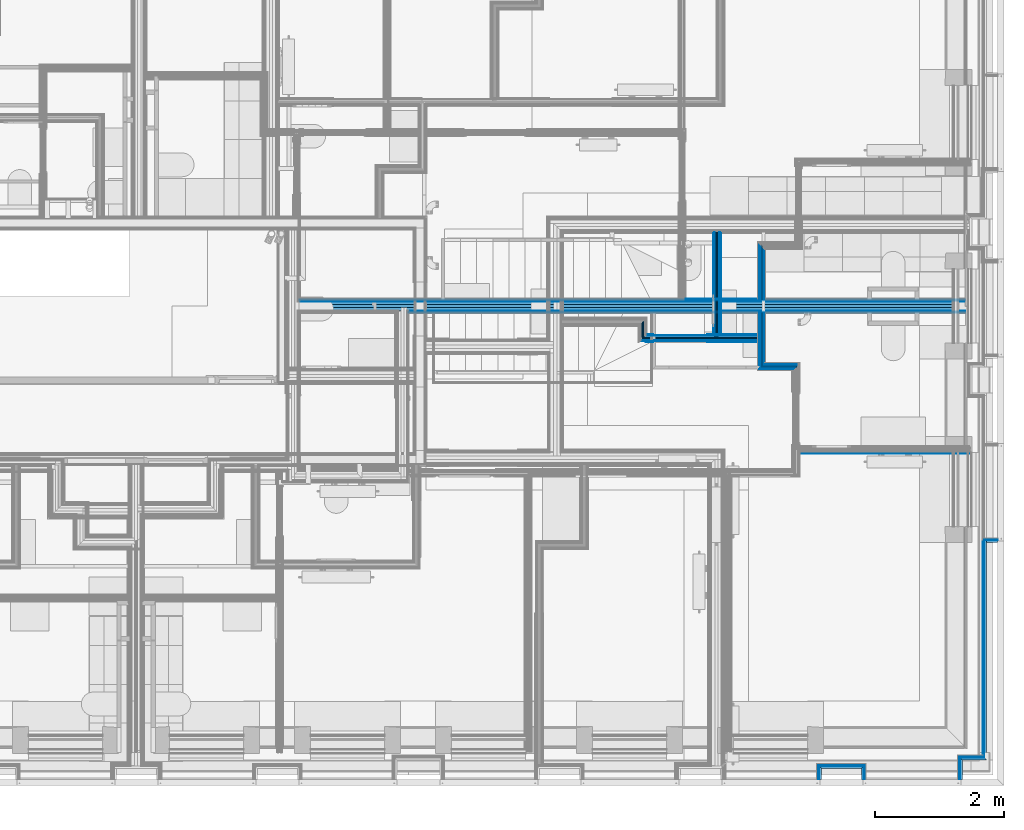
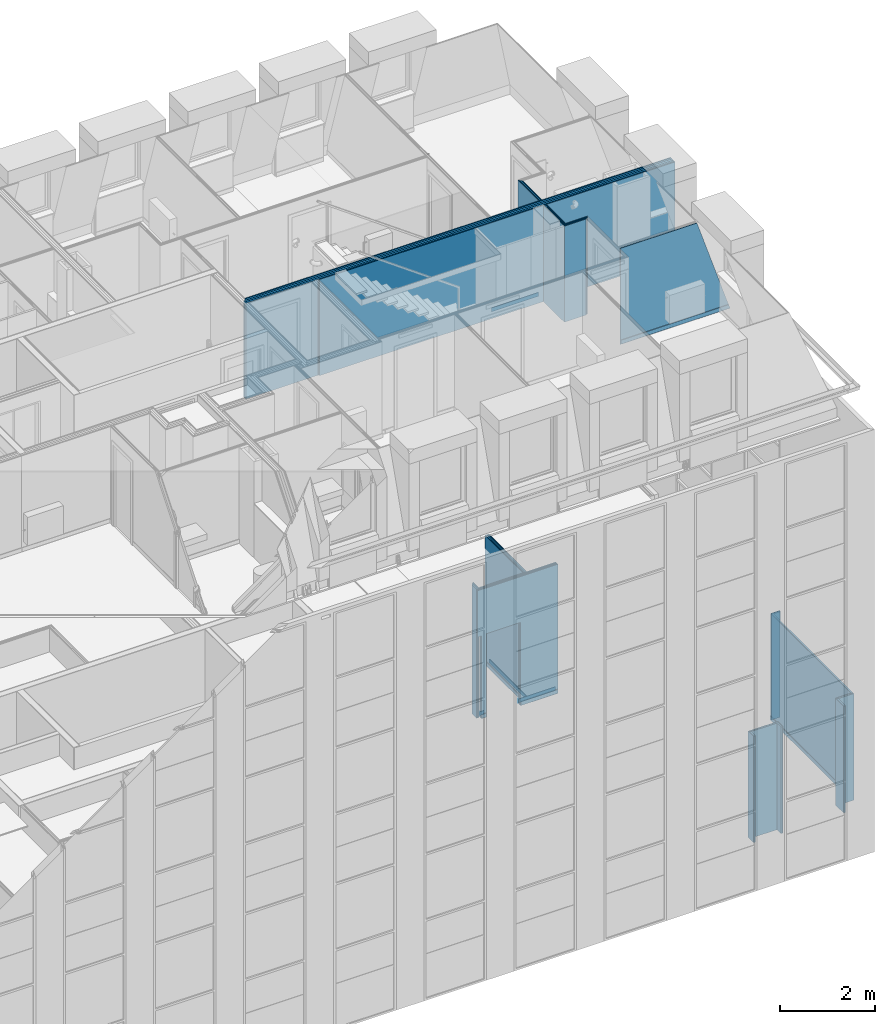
# One storey, part 40 of 169: 59 building element parts, 2 openings, 15 elements without a shape of their own.
"""IFC2X3 building model written with IfcOpenShell, lengths in metres."""

import ifcopenshell
import ifcopenshell.guid

model = None  # the IFC model being written
_history = None  # IfcOwnerHistory: only IFC2X3 demands one
_inside = {}  # id of a spatial element -> (the spatial element, [elements in it])
_under = {}  # id of a project, library or spatial element -> (it, [spatial elements below it])
_declared = {}  # id of a project -> (the project, [libraries it declares])
_typed = {}  # id of a type object -> (the type object, [elements of that type])
_made_of = {}  # id of a material, layer set ... -> (it, [elements and type objects made of it])


def new_model(schema):
    """Start an empty IFC model of exactly this schema.

    Asked for "IFC4X3", IfcOpenShell would pick the latest addendum, in which some entities
    have other attributes; the version numbers below select the first issue.
    IFC2X3 requires an IfcOwnerHistory on every rooted entity: one is made here for all.
    """
    global model, _history
    if schema == "IFC4X3":
        model = ifcopenshell.file(schema_version=(4, 3, 0, 0))
    else:
        model = ifcopenshell.file(schema=schema)
    _inside.clear()
    _under.clear()
    _declared.clear()
    _typed.clear()
    _made_of.clear()
    _history = None
    if model.schema == "IFC2X3":
        org = make("IfcOrganization", Name="unknown")
        user = make(
            "IfcPersonAndOrganization",
            ThePerson=make("IfcPerson", FamilyName="unknown"),
            TheOrganization=org,
        )
        app = make(
            "IfcApplication",
            ApplicationDeveloper=org,
            Version="unknown",
            ApplicationFullName="unknown",
            ApplicationIdentifier="unknown",
        )
        _history = make(
            "IfcOwnerHistory",
            OwningUser=user,
            OwningApplication=app,
            ChangeAction="ADDED",
            CreationDate=0,
        )
    return model


def make(cls, **values):
    """One entity of the class cls with the attributes given. An attribute that is None is left unset."""
    return model.create_entity(
        cls, **{name: value for name, value in values.items() if value is not None}
    )


def entity(cls, *values):
    """Any entity or typed value of the class cls, its attributes in the order of the schema. None: left unset."""
    e = model.create_entity(cls)
    for i, value in enumerate(values):
        if value is not None:
            e[i] = value
    return e


def rooted(cls, **values):
    """An entity with a GlobalId (a new one), such as an element, a storey or a relation."""
    return make(cls, GlobalId=ifcopenshell.guid.new(), OwnerHistory=_history, **values)


def si_unit(unit_type, name, prefix=None):
    """IfcSIUnit, for example si_unit("LENGTHUNIT", "METRE", prefix="MILLI")."""
    return make("IfcSIUnit", UnitType=unit_type, Prefix=prefix, Name=name)


def converted_unit(unit_type, name, factor, base, dimensions=None, offset=None):
    """IfcConversionBasedUnit, such as the inch: factor (a typed value) times the base unit."""
    return make(
        "IfcConversionBasedUnit"
        if offset is None
        else "IfcConversionBasedUnitWithOffset",
        ConversionOffset=offset,
        Dimensions=None
        if dimensions is None
        else entity("IfcDimensionalExponents", *dimensions),
        UnitType=unit_type,
        Name=name,
        ConversionFactor=make(
            "IfcMeasureWithUnit", ValueComponent=factor, UnitComponent=base
        ),
    )


def derived_unit(unit_type, elements):
    """IfcDerivedUnit: a product of units, each with its exponent."""
    return make(
        "IfcDerivedUnit",
        Elements=[
            make("IfcDerivedUnitElement", Unit=unit, Exponent=power)
            for unit, power in elements
        ],
        UnitType=unit_type,
    )


def money_unit(currency):
    """IfcMonetaryUnit."""
    return make("IfcMonetaryUnit", Currency=currency)


def assignment(units):
    """IfcUnitAssignment: the units of a project."""
    return None if units is None else make("IfcUnitAssignment", Units=units)


def point(xyz):
    """IfcCartesianPoint."""
    return None if xyz is None else make("IfcCartesianPoint", Coordinates=xyz)


def direction(xyz):
    """IfcDirection."""
    return None if xyz is None else make("IfcDirection", DirectionRatios=xyz)


def frame(location, z_axis=None, x_axis=None):
    """IfcAxis2Placement3D, a coordinate frame: its origin and axes. An axis left out is left unset."""
    return make(
        "IfcAxis2Placement3D",
        Location=point(location),
        Axis=direction(z_axis),
        RefDirection=direction(x_axis),
    )


def frame_2d(location, x_axis=None):
    """IfcAxis2Placement2D, a coordinate frame in the plane: its origin and x axis."""
    return make(
        "IfcAxis2Placement2D", Location=point(location), RefDirection=direction(x_axis)
    )


def origin_with_axes():
    """The frame at (0, 0, 0) with the z axis (0, 0, 1) and the x axis (1, 0, 0) written out."""
    return frame((0.0, 0.0, 0.0), z_axis=(0.0, 0.0, 1.0), x_axis=(1.0, 0.0, 0.0))


def place(relative_to, where):
    """IfcLocalPlacement: puts the frame where relative to a parent placement (None: the world)."""
    return make(
        "IfcLocalPlacement", PlacementRelTo=relative_to, RelativePlacement=where
    )


def context(
    kind, dimensions, precision=None, world=None, true_north=None, identifier=None
):
    """IfcGeometricRepresentationContext, for example the 3D "Model" context."""
    return make(
        "IfcGeometricRepresentationContext",
        ContextIdentifier=identifier,
        ContextType=kind,
        CoordinateSpaceDimension=dimensions,
        Precision=precision,
        WorldCoordinateSystem=world,
        TrueNorth=true_north,
    )


def subcontext(parent, identifier, kind, view, scale=None):
    """IfcGeometricRepresentationSubContext, for example "Body" below "Model"."""
    return make(
        "IfcGeometricRepresentationSubContext",
        ContextIdentifier=identifier,
        ContextType=kind,
        ParentContext=parent,
        TargetScale=scale,
        TargetView=view,
    )


def project(units=None, contexts=None):
    """IfcProject with its units and contexts."""
    return rooted(
        "IfcProject",
        Name="project",
        RepresentationContexts=contexts,
        UnitsInContext=assignment(units),
    )


def spatial(cls, under=None, at=None, **own):
    """A site, building, storey or space (cls), placed at a placement, below another one or the project."""
    s = rooted(cls, ObjectPlacement=at, **own)
    if under is not None:
        _under.setdefault(under.id(), (under, []))[1].append(s)
    return s


def polyline(points):
    """IfcPolyline through the points."""
    return make("IfcPolyline", Points=[point(p) for p in points])


def profile(cls, at=None, kind="AREA", **sizes):
    """A parametric profile (cls). Its sizes go by their IFC names, for example OverallWidth=200.0."""
    return make(cls, ProfileType=kind, Position=at, **sizes)


def rectangle(**sizes):
    """IfcRectangleProfileDef."""
    return profile("IfcRectangleProfileDef", **sizes)


def outline(outer, holes=None, kind="AREA"):
    """IfcArbitraryClosedProfileDef: a profile drawn as a closed curve; with holes, ...WithVoids."""
    if holes is None:
        return make("IfcArbitraryClosedProfileDef", ProfileType=kind, OuterCurve=outer)
    return make(
        "IfcArbitraryProfileDefWithVoids",
        ProfileType=kind,
        OuterCurve=outer,
        InnerCurves=holes,
    )


def extrude(swept, where, along, depth):
    """IfcExtrudedAreaSolid: the profile swept, set in the frame where, extruded along a direction by depth."""
    return make(
        "IfcExtrudedAreaSolid",
        SweptArea=swept,
        Position=where,
        ExtrudedDirection=direction(along),
        Depth=depth,
    )


def clip(a, b, op="DIFFERENCE"):
    """IfcBooleanClippingResult: the solid a cut by the half space b."""
    return make(
        "IfcBooleanClippingResult", Operator=op, FirstOperand=a, SecondOperand=b
    )


def halfspace(plane, agree):
    """IfcHalfSpaceSolid: all space on one side of the plane z = 0 of the frame plane."""
    return make(
        "IfcHalfSpaceSolid",
        BaseSurface=make("IfcPlane", Position=plane),
        AgreementFlag=agree,
    )


def shape(context_of_items, identifier, shape_type, items):
    """IfcShapeRepresentation: the items that make up one representation, for example the "Body"."""
    return make(
        "IfcShapeRepresentation",
        ContextOfItems=context_of_items,
        RepresentationIdentifier=identifier,
        RepresentationType=shape_type,
        Items=items,
    )


def material(Name=None, Category=None):
    """IfcMaterial."""
    return make("IfcMaterial", Name=Name, Category=Category)


def made_of(thing, what):
    """Note that an element or type object is made of a material, layer set ...; save() writes the relation."""
    if what is not None:
        _made_of.setdefault(what.id(), (what, []))[1].append(thing)
    return thing


def type_object(cls, material=None, **own):
    """A type object (cls), such as IfcWallType, which elements share."""
    return made_of(rooted(cls, **own), material)


def element(
    cls,
    number,
    at=None,
    inside=None,
    cuts=None,
    type_object=None,
    material=None,
    context=None,
    identifier="Body",
    shape_type=None,
    held_by="IfcProductDefinitionShape",
    body=None,
    shapes=None,
    **own,
):
    """One element of the class cls, such as IfcWall. Its Tag is "e" and its number.

    at: its placement. inside: the storey or other place that contains it. cuts: it is an
    opening in that element (IfcRelVoidsElement). A single representation is given by context,
    identifier, shape_type and body (its items); several are given by shapes. held_by: the class
    of the entity that holds the representations. save() writes the other relations.
    """
    e = rooted(cls, Tag="e%d" % number, ObjectPlacement=at, **own)
    if body is not None:
        shapes = [shape(context, identifier, shape_type, body)]
    if shapes is not None:
        e.Representation = make(held_by, Representations=shapes)
    if inside is not None:
        _inside.setdefault(inside.id(), (inside, []))[1].append(e)
    if cuts is not None:
        rooted(
            "IfcRelVoidsElement", RelatingBuildingElement=cuts, RelatedOpeningElement=e
        )
    if type_object is not None:
        _typed.setdefault(type_object.id(), (type_object, []))[1].append(e)
    return made_of(e, material)


def aggregate(whole, parts):
    """IfcRelAggregates: a whole, such as a stair, and the parts it consists of."""
    return rooted("IfcRelAggregates", RelatingObject=whole, RelatedObjects=parts)


def save(model, path):
    """Write the relations noted so far, then the file.

    IfcRelAggregates (storeys below a building ...), IfcRelContainedInSpatialStructure (elements
    in a storey), IfcRelDefinesByType, IfcRelAssociatesMaterial and IfcRelDeclares: one each for
    every whole, place, type object, material and project.
    """
    for whole, parts in _under.values():
        aggregate(whole, parts)
    for where, things in _inside.values():
        rooted(
            "IfcRelContainedInSpatialStructure",
            RelatedElements=things,
            RelatingStructure=where,
        )
    for kind, things in _typed.values():
        rooted("IfcRelDefinesByType", RelatedObjects=things, RelatingType=kind)
    for what, things in _made_of.values():
        rooted("IfcRelAssociatesMaterial", RelatedObjects=things, RelatingMaterial=what)
    for by, libraries in _declared.values():
        rooted("IfcRelDeclares", RelatingContext=by, RelatedDefinitions=libraries)
    model.write(path)


model = new_model("IFC2X3")

# Units and contexts
model_context = context("Model", 3, precision=1e-05, world=origin_with_axes(), true_north=direction((0.0, 1.0)))
body_context = subcontext(model_context, "Body", "Model", "MODEL_VIEW", scale=1.0)
ifc_project = project(units=[si_unit("LENGTHUNIT", "METRE"), si_unit("AREAUNIT", "SQUARE_METRE"), si_unit("VOLUMEUNIT", "CUBIC_METRE"), si_unit("ABSORBEDDOSEUNIT", "GRAY"), si_unit("AMOUNTOFSUBSTANCEUNIT", "MOLE"), si_unit("DOSEEQUIVALENTUNIT", "SIEVERT"), si_unit("ELECTRICCAPACITANCEUNIT", "FARAD"), si_unit("ELECTRICCHARGEUNIT", "COULOMB"), si_unit("ELECTRICCONDUCTANCEUNIT", "SIEMENS"), si_unit("ELECTRICCURRENTUNIT", "AMPERE"), si_unit("ELECTRICRESISTANCEUNIT", "OHM"), si_unit("ELECTRICVOLTAGEUNIT", "VOLT"), si_unit("ENERGYUNIT", "JOULE"), si_unit("FORCEUNIT", "NEWTON"), si_unit("FREQUENCYUNIT", "HERTZ"), si_unit("ILLUMINANCEUNIT", "LUX"), si_unit("INDUCTANCEUNIT", "HENRY"), si_unit("LUMINOUSFLUXUNIT", "LUMEN"), si_unit("LUMINOUSINTENSITYUNIT", "CANDELA"), si_unit("MAGNETICFLUXDENSITYUNIT", "TESLA"), si_unit("MAGNETICFLUXUNIT", "WEBER"), si_unit("MASSUNIT", "GRAM"), converted_unit("PLANEANGLEUNIT", "degree", entity("IfcReal", 0.0174532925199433), si_unit("PLANEANGLEUNIT", "RADIAN"), dimensions=[0, 0, 0, 0, 0, 0, 0]), si_unit("POWERUNIT", "WATT"), si_unit("PRESSUREUNIT", "PASCAL"), si_unit("RADIOACTIVITYUNIT", "BECQUEREL"), si_unit("SOLIDANGLEUNIT", "STERADIAN"), si_unit("THERMODYNAMICTEMPERATUREUNIT", "KELVIN"), si_unit("TIMEUNIT", "SECOND"), derived_unit("ACCELERATIONUNIT", [(si_unit("LENGTHUNIT", "METRE"), 1), (si_unit("TIMEUNIT", "SECOND"), -2)]), derived_unit("ANGULARVELOCITYUNIT", [(converted_unit("PLANEANGLEUNIT", "degree", entity("IfcReal", 0.0174532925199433), si_unit("PLANEANGLEUNIT", "RADIAN"), dimensions=[0, 0, 0, 0, 0, 0, 0]), 1), (si_unit("TIMEUNIT", "SECOND"), -1)]), derived_unit("CURVATUREUNIT", [(converted_unit("PLANEANGLEUNIT", "degree", entity("IfcReal", 0.0174532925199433), si_unit("PLANEANGLEUNIT", "RADIAN"), dimensions=[0, 0, 0, 0, 0, 0, 0]), 1), (si_unit("LENGTHUNIT", "METRE"), -1)]), derived_unit("DYNAMICVISCOSITYUNIT", [(si_unit("PRESSUREUNIT", "PASCAL"), 1), (si_unit("TIMEUNIT", "SECOND"), 1)]), derived_unit("HEATFLUXDENSITYUNIT", [(si_unit("POWERUNIT", "WATT"), 1), (si_unit("LENGTHUNIT", "METRE"), -2)]), derived_unit("HEATINGVALUEUNIT", [(si_unit("ENERGYUNIT", "JOULE"), 1), (si_unit("MASSUNIT", "GRAM"), -1)]), derived_unit("INTEGERCOUNTRATEUNIT", [(si_unit("TIMEUNIT", "SECOND"), -1)]), derived_unit("IONCONCENTRATIONUNIT", [(si_unit("MASSUNIT", "GRAM"), 1), (si_unit("VOLUMEUNIT", "CUBIC_METRE"), -1)]), derived_unit("ISOTHERMALMOISTURECAPACITYUNIT", [(si_unit("VOLUMEUNIT", "CUBIC_METRE"), 1), (si_unit("MASSUNIT", "GRAM"), -1)]), derived_unit("KINEMATICVISCOSITYUNIT", [(si_unit("AREAUNIT", "SQUARE_METRE"), 1), (si_unit("TIMEUNIT", "SECOND"), -1)]), derived_unit("LINEARFORCEUNIT", [(si_unit("FORCEUNIT", "NEWTON"), 1), (si_unit("LENGTHUNIT", "METRE"), -1)]), derived_unit("LINEARMOMENTUNIT", [(si_unit("FORCEUNIT", "NEWTON"), 1), (si_unit("LENGTHUNIT", "METRE"), -1)]), derived_unit("LINEARSTIFFNESSUNIT", [(si_unit("FORCEUNIT", "NEWTON"), 1), (si_unit("LENGTHUNIT", "METRE"), -1)]), derived_unit("LINEARVELOCITYUNIT", [(si_unit("LENGTHUNIT", "METRE"), 1), (si_unit("TIMEUNIT", "SECOND"), -1)]), derived_unit("LUMINOUSINTENSITYDISTRIBUTIONUNIT", [(si_unit("LUMINOUSINTENSITYUNIT", "CANDELA"), 1), (si_unit("LUMINOUSFLUXUNIT", "LUMEN"), -1)]), derived_unit("MASSDENSITYUNIT", [(si_unit("MASSUNIT", "GRAM"), 1), (si_unit("VOLUMEUNIT", "CUBIC_METRE"), -1)]), derived_unit("MASSFLOWRATEUNIT", [(si_unit("MASSUNIT", "GRAM"), 1), (si_unit("TIMEUNIT", "SECOND"), -1)]), derived_unit("MASSPERLENGTHUNIT", [(si_unit("MASSUNIT", "GRAM"), 1), (si_unit("LENGTHUNIT", "METRE"), -1)]), derived_unit("MODULUSOFELASTICITYUNIT", [(si_unit("FORCEUNIT", "NEWTON"), 1), (si_unit("AREAUNIT", "SQUARE_METRE"), -1)]), derived_unit("MODULUSOFLINEARSUBGRADEREACTIONUNIT", [(si_unit("FORCEUNIT", "NEWTON"), 1), (si_unit("LENGTHUNIT", "METRE"), -2)]), derived_unit("MODULUSOFROTATIONALSUBGRADEREACTIONUNIT", [(si_unit("FORCEUNIT", "NEWTON"), 1), (si_unit("LENGTHUNIT", "METRE"), 1)]), derived_unit("MODULUSOFSUBGRADEREACTIONUNIT", [(si_unit("FORCEUNIT", "NEWTON"), 1), (si_unit("VOLUMEUNIT", "CUBIC_METRE"), -1)]), derived_unit("MOISTUREDIFFUSIVITYUNIT", [(si_unit("VOLUMEUNIT", "CUBIC_METRE"), 1), (si_unit("TIMEUNIT", "SECOND"), -1)]), derived_unit("MOLECULARWEIGHTUNIT", [(si_unit("MASSUNIT", "GRAM"), 1), (si_unit("AMOUNTOFSUBSTANCEUNIT", "MOLE"), -1)]), derived_unit("PLANARFORCEUNIT", [(si_unit("FORCEUNIT", "NEWTON"), 1), (si_unit("LENGTHUNIT", "METRE"), -2)]), derived_unit("ROTATIONALFREQUENCYUNIT", [(si_unit("TIMEUNIT", "SECOND"), -1)]), derived_unit("ROTATIONALMASSUNIT", [(si_unit("MASSUNIT", "GRAM"), 1), (si_unit("LENGTHUNIT", "METRE"), 2)]), derived_unit("ROTATIONALSTIFFNESSUNIT", [(si_unit("FORCEUNIT", "NEWTON"), 1), (si_unit("LENGTHUNIT", "METRE"), 1), (converted_unit("PLANEANGLEUNIT", "degree", entity("IfcReal", 0.0174532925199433), si_unit("PLANEANGLEUNIT", "RADIAN"), dimensions=[0, 0, 0, 0, 0, 0, 0]), -1)]), derived_unit("SECTIONAREAINTEGRALUNIT", [(si_unit("LENGTHUNIT", "METRE"), 5)]), derived_unit("SECTIONMODULUSUNIT", [(si_unit("LENGTHUNIT", "METRE"), 3)]), derived_unit("SHEARMODULUSUNIT", [(si_unit("FORCEUNIT", "NEWTON"), 1), (si_unit("AREAUNIT", "SQUARE_METRE"), -1)]), derived_unit("SOUNDPOWERUNIT", [(si_unit("ENERGYUNIT", "JOULE"), 1), (si_unit("TIMEUNIT", "SECOND"), -1)]), derived_unit("SPECIFICHEATCAPACITYUNIT", [(si_unit("FORCEUNIT", "NEWTON"), 1), (si_unit("MASSUNIT", "GRAM"), -1), (si_unit("THERMODYNAMICTEMPERATUREUNIT", "KELVIN"), -1)]), derived_unit("TEMPERATUREGRADIENTUNIT", [(si_unit("THERMODYNAMICTEMPERATUREUNIT", "KELVIN"), 1), (si_unit("LENGTHUNIT", "METRE"), -1)]), derived_unit("THERMALADMITTANCEUNIT", [(si_unit("POWERUNIT", "WATT"), 1), (si_unit("AREAUNIT", "SQUARE_METRE"), -1), (si_unit("THERMODYNAMICTEMPERATUREUNIT", "KELVIN"), -1)]), derived_unit("THERMALCONDUCTANCEUNIT", [(si_unit("POWERUNIT", "WATT"), 1), (si_unit("LENGTHUNIT", "METRE"), -1), (si_unit("THERMODYNAMICTEMPERATUREUNIT", "KELVIN"), -1)]), derived_unit("THERMALEXPANSIONCOEFFICIENTUNIT", [(si_unit("THERMODYNAMICTEMPERATUREUNIT", "KELVIN"), -1)]), derived_unit("THERMALRESISTANCEUNIT", [(si_unit("AREAUNIT", "SQUARE_METRE"), 1), (si_unit("POWERUNIT", "WATT"), -1)]), derived_unit("THERMALTRANSMITTANCEUNIT", [(si_unit("POWERUNIT", "WATT"), 1), (si_unit("AREAUNIT", "SQUARE_METRE"), -1), (si_unit("THERMODYNAMICTEMPERATUREUNIT", "KELVIN"), -1)]), derived_unit("TORQUEUNIT", [(si_unit("FORCEUNIT", "NEWTON"), 1), (si_unit("LENGTHUNIT", "METRE"), 1)]), derived_unit("VAPORPERMEABILITYUNIT", [(si_unit("MASSUNIT", "GRAM"), 1), (si_unit("TIMEUNIT", "SECOND"), -1)]), derived_unit("VOLUMETRICFLOWRATEUNIT", [(si_unit("VOLUMEUNIT", "CUBIC_METRE"), 1), (si_unit("TIMEUNIT", "SECOND"), -1)]), derived_unit("WARPINGCONSTANTUNIT", [(si_unit("LENGTHUNIT", "METRE"), 6)]), derived_unit("WARPINGMOMENTUNIT", [(si_unit("FORCEUNIT", "NEWTON"), 1), (si_unit("LENGTHUNIT", "METRE"), 2)]), money_unit("GBP")], contexts=[model_context])

# Site, building, storey
site_placement = place(None, origin_with_axes())
site = spatial("IfcSite", under=ifc_project, at=site_placement, Name="Site", CompositionType="ELEMENT")
building_placement = place(site_placement, origin_with_axes())
building = spatial("IfcBuilding", under=site, at=building_placement, Name="Building01", CompositionType="ELEMENT")
storey_placement = place(building_placement, frame((0.0, 0.0, 5.15), z_axis=(0.0, 0.0, 1.0), x_axis=(1.0, 0.0, 0.0)))
storey = spatial("IfcBuildingStorey", under=building, at=storey_placement, Name="1F", CompositionType="ELEMENT", Elevation=5.15)

# Wall, building element parts
wall_type_1 = type_object("IfcWallType", Name="SHE_A-Walls_Type06d_ExternalWallInsulation_48mm", PredefinedType="NOTDEFINED")
wall_1_placement = place(storey_placement, frame((24.143, 0.1, 0.0), z_axis=(0.0, 0.0, 1.0), x_axis=(0.0, 1.0, 0.0)))
wall_1 = element("IfcWall", 1, at=wall_1_placement, inside=storey, type_object=wall_type_1, Name="6D", ObjectType="SHE_A-Walls_Type06d_ExternalWallInsulation_48mm")
ifc_material_1 = material(Name="A_BSUK_Insulation")
placement_1 = place(wall_1_placement, origin_with_axes())
building_element_part_1 = element("IfcBuildingElementPart", 2, at=placement_1, material=ifc_material_1, Name="1", context=body_context, shape_type="SweptSolid", body=[
    extrude(outline(polyline([(0.206, 0.036), (0.0, 0.036), (0.0, 0.0), (0.17, 0.0), (0.206, 0.036)])), origin_with_axes(), (0.0, 0.0, 1.0), 2.74),
])
ifc_material_2 = material(Name="A_BSUK_WallInternal_Finishes_Plasterboard")
building_element_part_2 = element("IfcBuildingElementPart", 3, at=placement_1, material=ifc_material_2, Name="2", context=body_context, shape_type="SweptSolid", body=[
    extrude(outline(polyline([(0.218, 0.048), (0.0, 0.048), (0.0, 0.035), (0.205, 0.035), (0.218, 0.048)])), origin_with_axes(), (0.0, 0.0, 1.0), 2.74),
])
aggregate(wall_1, [building_element_part_1, building_element_part_2])

wall_2_placement = place(storey_placement, frame((24.143, 0.27, 0.0), z_axis=(0.0, 0.0, 1.0), x_axis=(1.0, 0.0, 0.0)))
wall_2 = element("IfcWall", 4, at=wall_2_placement, inside=storey, type_object=wall_type_1, Name="6D", ObjectType="SHE_A-Walls_Type06d_ExternalWallInsulation_48mm")
placement_2 = place(wall_2_placement, origin_with_axes())
building_element_part_3 = element("IfcBuildingElementPart", 5, at=placement_2, material=ifc_material_1, Name="1", context=body_context, shape_type="SweptSolid", body=[
    extrude(outline(polyline([(0.66, 0.036), (-0.036, 0.036), (0.0, 0.0), (0.624, 0.0), (0.66, 0.036)])), origin_with_axes(), (0.0, 0.0, 1.0), 2.74),
])
building_element_part_4 = element("IfcBuildingElementPart", 6, at=placement_2, material=ifc_material_2, Name="2", context=body_context, shape_type="SweptSolid", body=[
    extrude(outline(polyline([(0.672, 0.048), (-0.048, 0.048), (-0.035, 0.035), (0.659, 0.035), (0.672, 0.048)])), origin_with_axes(), (0.0, 0.0, 1.0), 2.74),
])
aggregate(wall_2, [building_element_part_3, building_element_part_4])

wall_3_placement = place(storey_placement, frame((24.767, 0.27, 0.0), z_axis=(0.0, 0.0, 1.0), x_axis=(0.0, -1.0, 0.0)))
wall_3 = element("IfcWall", 7, at=wall_3_placement, inside=storey, type_object=wall_type_1, Name="6D", ObjectType="SHE_A-Walls_Type06d_ExternalWallInsulation_48mm")
placement_3 = place(wall_3_placement, origin_with_axes())
building_element_part_5 = element("IfcBuildingElementPart", 8, at=placement_3, material=ifc_material_1, Name="1", context=body_context, shape_type="SweptSolid", body=[
    extrude(outline(polyline([(-0.036, 0.036), (0.0, 0.0), (0.17, 0.0), (0.17, 0.036), (-0.036, 0.036)])), origin_with_axes(), (0.0, 0.0, 1.0), 2.74),
])
building_element_part_6 = element("IfcBuildingElementPart", 9, at=placement_3, material=ifc_material_2, Name="2", context=body_context, shape_type="SweptSolid", body=[
    extrude(outline(polyline([(-0.048, 0.048), (-0.035, 0.035), (0.17, 0.035), (0.17, 0.048), (-0.048, 0.048)])), origin_with_axes(), (0.0, 0.0, 1.0), 2.74),
])
aggregate(wall_3, [building_element_part_5, building_element_part_6])

wall_4_placement = place(storey_placement, frame((26.333, 0.1, 0.0), z_axis=(0.0, 0.0, 1.0), x_axis=(0.0, 1.0, 0.0)))
wall_4 = element("IfcWall", 10, at=wall_4_placement, inside=storey, type_object=wall_type_1, Name="6D", ObjectType="SHE_A-Walls_Type06d_ExternalWallInsulation_48mm")
placement_4 = place(wall_4_placement, origin_with_axes())
building_element_part_7 = element("IfcBuildingElementPart", 11, at=placement_4, material=ifc_material_1, Name="1", context=body_context, shape_type="SweptSolid", body=[
    extrude(outline(polyline([(0.336, 0.036), (0.0, 0.036), (0.0, 0.0), (0.3, 0.0), (0.336, 0.036)])), origin_with_axes(), (0.0, 0.0, 1.0), 2.74),
])
building_element_part_8 = element("IfcBuildingElementPart", 12, at=placement_4, material=ifc_material_2, Name="2", context=body_context, shape_type="SweptSolid", body=[
    extrude(outline(polyline([(0.348, 0.048), (0.0, 0.048), (0.0, 0.035), (0.335, 0.035), (0.348, 0.048)])), origin_with_axes(), (0.0, 0.0, 1.0), 2.74),
])
aggregate(wall_4, [building_element_part_7, building_element_part_8])

wall_5_placement = place(storey_placement, frame((26.333, 0.4, 0.0), z_axis=(0.0, 0.0, 1.0), x_axis=(1.0, 0.0, 0.0)))
wall_5 = element("IfcWall", 13, at=wall_5_placement, inside=storey, type_object=wall_type_1, Name="6D", ObjectType="SHE_A-Walls_Type06d_ExternalWallInsulation_48mm")
placement_5 = place(wall_5_placement, origin_with_axes())
building_element_part_9 = element("IfcBuildingElementPart", 14, at=placement_5, material=ifc_material_1, Name="1", context=body_context, shape_type="SweptSolid", body=[
    extrude(outline(polyline([(0.341, 0.036), (-0.036, 0.036), (0.0, 0.0), (0.377, 0.0), (0.341, 0.036)])), origin_with_axes(), (0.0, 0.0, 1.0), 2.74),
])
building_element_part_10 = element("IfcBuildingElementPart", 15, at=placement_5, material=ifc_material_2, Name="2", context=body_context, shape_type="SweptSolid", body=[
    extrude(outline(polyline([(0.329, 0.048), (-0.048, 0.048), (-0.035, 0.035), (0.342, 0.035), (0.329, 0.048)])), origin_with_axes(), (0.0, 0.0, 1.0), 2.74),
])
aggregate(wall_5, [building_element_part_9, building_element_part_10])

wall_6_placement = place(storey_placement, frame((26.71, 0.4, 0.0), z_axis=(0.0, 0.0, 1.0), x_axis=(0.0, 1.0, 0.0)))
wall_6 = element("IfcWall", 16, at=wall_6_placement, inside=storey, type_object=wall_type_1, Name="6D", ObjectType="SHE_A-Walls_Type06d_ExternalWallInsulation_48mm")
placement_6 = place(wall_6_placement, origin_with_axes())
building_element_part_11 = element("IfcBuildingElementPart", 17, at=placement_6, material=ifc_material_1, Name="1", context=body_context, shape_type="SweptSolid", body=[
    extrude(outline(polyline([(3.41018, 0.036), (0.036, 0.036), (0.0, 0.0), (3.41018, 0.0), (3.41018, 0.036)])), origin_with_axes(), (0.0, 0.0, 1.0), 2.74),
])
building_element_part_12 = element("IfcBuildingElementPart", 18, at=placement_6, material=ifc_material_2, Name="2", context=body_context, shape_type="SweptSolid", body=[
    extrude(outline(polyline([(3.42218, 0.048), (0.048, 0.048), (0.035, 0.035), (3.42218, 0.035), (3.42218, 0.048)])), origin_with_axes(), (0.0, 0.0, 1.0), 2.74),
])
ifc_material_3 = material(Name="A_BSUK_Walls_Timber")
building_element_part_13 = element("IfcBuildingElementPart", 19, at=placement_6, material=ifc_material_3, Name="3", context=body_context, shape_type="SweptSolid", body=[
    extrude(outline(polyline([(0.063, 0.063), (0.048, 0.048), (3.42218, 0.048), (3.42218, 0.063), (0.063, 0.063)])), frame((0.0, 0.0, 0.015), z_axis=(0.0, 0.0, 1.0), x_axis=(1.0, 0.0, 0.0)), (0.0, 0.0, 1.0), 0.1),
])
aggregate(wall_6, [building_element_part_11, building_element_part_12, building_element_part_13])

wall_type_2 = type_object("IfcWallType", Name="SHE_A-Walls_Type05a_Partition_95mm_tall", PredefinedType="NOTDEFINED")
wall_7_placement = place(storey_placement, frame((21.382661, 6.965, 0.0), z_axis=(0.0, 0.0, 1.0), x_axis=(0.0, 1.0, 0.0)))
wall_7 = element("IfcWall", 20, at=wall_7_placement, inside=storey, type_object=wall_type_2, Name="5A", ObjectType="SHE_A-Walls_Type05a_Partition_95mm_tall")
ifc_material_4 = material(Name="Air Cavity")
placement_7 = place(wall_7_placement, origin_with_axes())
building_element_part_14 = element("IfcBuildingElementPart", 21, at=placement_7, material=ifc_material_4, Name="3", context=body_context, shape_type="SweptSolid", body=[
    extrude(outline(polyline([(0.25, 0.0), (0.0, 0.0), (0.023, -0.023), (0.273, -0.023), (0.25, 0.0)])), origin_with_axes(), (0.0, 0.0, 1.0), 3.32),
])
building_element_part_15 = element("IfcBuildingElementPart", 22, at=placement_7, material=ifc_material_1, Name="4", context=body_context, shape_type="SweptSolid", body=[
    extrude(outline(polyline([(0.225, 0.025), (0.0, 0.025), (0.0, 0.0), (0.25, 0.0), (0.225, 0.025)])), origin_with_axes(), (0.0, 0.0, 1.0), 3.32),
])
building_element_part_16 = element("IfcBuildingElementPart", 23, at=placement_7, material=ifc_material_4, Name="5", context=body_context, shape_type="SweptSolid", body=[
    extrude(outline(polyline([(0.202, 0.048), (0.0, 0.048), (0.0, 0.025), (0.225, 0.025), (0.202, 0.048)])), origin_with_axes(), (0.0, 0.0, 1.0), 3.32),
])
aggregate(wall_7, [building_element_part_14, building_element_part_15, building_element_part_16])

# Wall, openings, building element parts
wall_8_placement = place(storey_placement, frame((21.357661, 6.94, 0.0), z_axis=(0.0, 0.0, 1.0), x_axis=(1.0, 0.0, 0.0)))
wall_8 = element("IfcWall", 24, at=wall_8_placement, inside=storey, type_object=wall_type_2, Name="5A", ObjectType="SHE_A-Walls_Type05a_Partition_95mm_tall")
opening_1_placement = place(wall_8_placement, frame((-0.773, -0.05, -0.015), z_axis=(0.0, 0.0, 1.0), x_axis=(1.0, 0.0, 0.0)))
element("IfcOpeningElement", 25, at=opening_1_placement, cuts=wall_8, Name="Opening", ObjectType="Opening", context=body_context, shape_type="SweptSolid", body=[
    extrude(rectangle(XDim=0.834, YDim=2.142, at=frame_2d((-0.417, 1.071), x_axis=(1.0, 0.0))), frame((0.0, 0.0, 0.0), z_axis=(0.0, 1.0, 0.0), x_axis=(-1.0, 0.0, 0.0)), (0.0, 0.0, 1.0), 0.125),
])
opening_2_placement = place(wall_8_placement, frame((0.177, -0.05, 0.0), z_axis=(0.0, 0.0, 1.0), x_axis=(1.0, 0.0, 0.0)))
element("IfcOpeningElement", 26, at=opening_2_placement, cuts=wall_8, Name="Opening", ObjectType="Opening", context=body_context, shape_type="SweptSolid", body=[
    extrude(rectangle(XDim=2.142, YDim=0.834, at=frame_2d((-0.417, 1.071), x_axis=(0.0, -1.0))), frame((0.0, 0.0, 0.0), z_axis=(0.0, 1.0, 0.0), x_axis=(-1.0, 0.0, 0.0)), (0.0, 0.0, 1.0), 0.125),
])
placement_8 = place(wall_8_placement, origin_with_axes())
building_element_part_17 = element("IfcBuildingElementPart", 27, at=placement_8, material=ifc_material_3, Name="1", context=body_context, shape_type="SweptSolid", body=[
    extrude(outline(polyline([(1.913868, -0.035), (-0.035, -0.035), (-0.05, -0.05), (1.913868, -0.05), (1.913868, -0.035)])), frame((0.0, 0.0, 0.015), z_axis=(0.0, 0.0, 1.0), x_axis=(1.0, 0.0, 0.0)), (0.0, 0.0, 1.0), 0.1),
])
building_element_part_18 = element("IfcBuildingElementPart", 28, at=placement_8, material=ifc_material_2, Name="2", context=body_context, shape_type="SweptSolid", body=[
    extrude(outline(polyline([(1.913868, -0.023), (-0.023, -0.023), (-0.035, -0.035), (1.913868, -0.035), (1.913868, -0.023)])), origin_with_axes(), (0.0, 0.0, 1.0), 3.32),
])
building_element_part_19 = element("IfcBuildingElementPart", 29, at=placement_8, material=ifc_material_4, Name="3", context=body_context, shape_type="SweptSolid", body=[
    extrude(outline(polyline([(1.913868, 0.0), (0.0, 0.0), (-0.023, -0.023), (1.913868, -0.023), (1.913868, 0.0)])), origin_with_axes(), (0.0, 0.0, 1.0), 3.32),
])
building_element_part_20 = element("IfcBuildingElementPart", 30, at=placement_8, material=ifc_material_1, Name="4", context=body_context, shape_type="SweptSolid", body=[
    extrude(rectangle(XDim=1.913868, YDim=0.025, at=frame_2d((0.956934, 0.0125), x_axis=(-1.0, 0.0))), origin_with_axes(), (0.0, 0.0, 1.0), 3.32),
])
building_element_part_21 = element("IfcBuildingElementPart", 31, at=placement_8, material=ifc_material_4, Name="5", context=body_context, shape_type="SweptSolid", body=[
    extrude(rectangle(XDim=1.913868, YDim=0.023, at=frame_2d((0.956934, 0.0365), x_axis=(-1.0, 0.0))), origin_with_axes(), (0.0, 0.0, 1.0), 3.32),
])
building_element_part_22 = element("IfcBuildingElementPart", 32, at=placement_8, material=ifc_material_2, Name="6", context=body_context, shape_type="SweptSolid", body=[
    extrude(outline(polyline([(1.131, 0.06), (0.06, 0.06), (0.048, 0.048), (1.131, 0.048), (1.131, 0.06)])), origin_with_axes(), (0.0, 0.0, 1.0), 3.32),
])
building_element_part_23 = element("IfcBuildingElementPart", 33, at=placement_8, material=ifc_material_2, Name="7", context=body_context, shape_type="SweptSolid", body=[
    extrude(outline(polyline([(1.913868, 0.06), (0.06, 0.06), (0.048, 0.048), (1.913868, 0.048), (1.913868, 0.06)])), origin_with_axes(), (0.0, 0.0, 1.0), 3.32),
])
building_element_part_24 = element("IfcBuildingElementPart", 34, at=placement_8, material=ifc_material_3, Name="8", context=body_context, shape_type="SweptSolid", body=[
    extrude(outline(polyline([(1.119, 0.075), (0.075, 0.075), (0.06, 0.06), (1.119, 0.06), (1.119, 0.075)])), frame((0.0, 0.0, 0.015), z_axis=(0.0, 0.0, 1.0), x_axis=(1.0, 0.0, 0.0)), (0.0, 0.0, 1.0), 0.1),
])
building_element_part_25 = element("IfcBuildingElementPart", 35, at=placement_8, material=ifc_material_3, Name="9", context=body_context, shape_type="SweptSolid", body=[
    extrude(outline(polyline([(1.913868, 0.075), (0.075, 0.075), (0.06, 0.06), (1.913868, 0.06), (1.913868, 0.075)])), frame((0.0, 0.0, 0.015), z_axis=(0.0, 0.0, 1.0), x_axis=(1.0, 0.0, 0.0)), (0.0, 0.0, 1.0), 0.1),
])
aggregate(wall_8, [building_element_part_17, building_element_part_18, building_element_part_19, building_element_part_20, building_element_part_21, building_element_part_22, building_element_part_23, building_element_part_24, building_element_part_25])

# Wall, building element parts
wall_9_placement = place(storey_placement, frame((22.536661, 6.965, 0.0), z_axis=(0.0, 0.0, 1.0), x_axis=(0.0, 1.0, 0.0)))
wall_9 = element("IfcWall", 36, at=wall_9_placement, inside=storey, type_object=wall_type_2, Name="5A", ObjectType="SHE_A-Walls_Type05a_Partition_95mm_tall")
placement_9 = place(wall_9_placement, origin_with_axes())
building_element_part_26 = element("IfcBuildingElementPart", 37, at=placement_9, material=ifc_material_3, Name="1", context=body_context, shape_type="SweptSolid", body=[
    extrude(rectangle(XDim=1.565, YDim=0.015, at=frame_2d((0.8325, -0.0425), x_axis=(-1.0, 0.0))), frame((0.0, 0.0, 0.015), z_axis=(0.0, 0.0, 1.0), x_axis=(1.0, 0.0, 0.0)), (0.0, 0.0, 1.0), 0.1),
])
building_element_part_27 = element("IfcBuildingElementPart", 38, at=placement_9, material=ifc_material_2, Name="2", context=body_context, shape_type="SweptSolid", body=[
    extrude(rectangle(XDim=1.595, YDim=0.012, at=frame_2d((0.8325, -0.029), x_axis=(-1.0, 0.0))), origin_with_axes(), (0.0, 0.0, 1.0), 3.32),
])
building_element_part_28 = element("IfcBuildingElementPart", 39, at=placement_9, material=ifc_material_4, Name="3", context=body_context, shape_type="SweptSolid", body=[
    extrude(rectangle(XDim=1.595, YDim=0.023, at=frame_2d((0.8325, -0.0115), x_axis=(-1.0, 0.0))), origin_with_axes(), (0.0, 0.0, 1.0), 3.32),
])
building_element_part_29 = element("IfcBuildingElementPart", 40, at=placement_9, material=ifc_material_1, Name="4", context=body_context, shape_type="SweptSolid", body=[
    extrude(rectangle(XDim=1.63, YDim=0.025, at=frame_2d((0.815, 0.0125), x_axis=(-1.0, 0.0))), origin_with_axes(), (0.0, 0.0, 1.0), 3.32),
])
building_element_part_30 = element("IfcBuildingElementPart", 41, at=placement_9, material=ifc_material_4, Name="5", context=body_context, shape_type="SweptSolid", body=[
    extrude(rectangle(XDim=1.63, YDim=0.023, at=frame_2d((0.815, 0.0365), x_axis=(-1.0, 0.0))), origin_with_axes(), (0.0, 0.0, 1.0), 3.32),
])
building_element_part_31 = element("IfcBuildingElementPart", 42, at=placement_9, material=ifc_material_2, Name="6", context=body_context, shape_type="SweptSolid", body=[
    extrude(rectangle(XDim=1.595, YDim=0.012, at=frame_2d((0.8325, 0.054), x_axis=(-1.0, 0.0))), origin_with_axes(), (0.0, 0.0, 1.0), 3.32),
])
building_element_part_32 = element("IfcBuildingElementPart", 43, at=placement_9, material=ifc_material_3, Name="7", context=body_context, shape_type="SweptSolid", body=[
    extrude(rectangle(XDim=1.565, YDim=0.015, at=frame_2d((0.8325, 0.0675), x_axis=(-1.0, 0.0))), frame((0.0, 0.0, 0.015), z_axis=(0.0, 0.0, 1.0), x_axis=(1.0, 0.0, 0.0)), (0.0, 0.0, 1.0), 0.1),
])
aggregate(wall_9, [building_element_part_26, building_element_part_27, building_element_part_28, building_element_part_29, building_element_part_30, building_element_part_31, building_element_part_32])

wall_10_placement = place(storey_placement, frame((26.71, 3.77418, 0.0), z_axis=(0.0, 0.0, 1.0), x_axis=(1.0, 0.0, 0.0)))
wall_10 = element("IfcWall", 44, at=wall_10_placement, inside=storey, type_object=wall_type_1, Name="6D", ObjectType="SHE_A-Walls_Type06d_ExternalWallInsulation_48mm")
placement_10 = place(wall_10_placement, origin_with_axes())
building_element_part_33 = element("IfcBuildingElementPart", 45, at=placement_10, material=ifc_material_1, Name="1", context=body_context, shape_type="SweptSolid", body=[
    extrude(rectangle(XDim=0.036, YDim=0.17, at=frame_2d((0.085, 0.018), x_axis=(0.0, -1.0))), origin_with_axes(), (0.0, 0.0, 1.0), 2.74),
])
building_element_part_34 = element("IfcBuildingElementPart", 46, at=placement_10, material=ifc_material_2, Name="2", context=body_context, shape_type="SweptSolid", body=[
    extrude(rectangle(XDim=0.013, YDim=0.205, at=frame_2d((0.0675, 0.0415), x_axis=(0.0, -1.0))), origin_with_axes(), (0.0, 0.0, 1.0), 2.74),
])
aggregate(wall_10, [building_element_part_33, building_element_part_34])

wall_type_3 = type_object("IfcWallType", Name="SHE_A-Walls_Type01d_Partywall_200mm_twin", PredefinedType="NOTDEFINED")
wall_11_placement = place(storey_placement, frame((26.380061, 7.474915, 9.83), z_axis=(0.0, 0.0, 1.0), x_axis=(-1.0, 0.0, 0.0)))
wall_11 = element("IfcWall", 47, at=wall_11_placement, inside=storey, type_object=wall_type_3, Name="1D", ObjectType="SHE_A-Walls_Type01d_Partywall_200mm_twin")
placement_11 = place(wall_11_placement, origin_with_axes())
building_element_part_35 = element("IfcBuildingElementPart", 48, at=placement_11, material=ifc_material_3, Name="2", context=body_context, shape_type="SweptSolid", body=[
    extrude(rectangle(XDim=1.143846, YDim=0.015, at=frame_2d((3.773162, -0.0825), x_axis=(-1.0, 0.0))), frame((0.0, 0.0, 0.015), z_axis=(0.0, 0.0, 1.0), x_axis=(1.0, 0.0, 0.0)), (0.0, 0.0, 1.0), 0.1),
])
building_element_part_36 = element("IfcBuildingElementPart", 49, at=placement_11, material=ifc_material_2, Name="5", context=body_context, shape_type="SweptSolid", body=[
    extrude(rectangle(XDim=10.341621, YDim=0.015, at=frame_2d((5.17081, -0.0675), x_axis=(-1.0, 0.0))), origin_with_axes(), (0.0, 0.0, 1.0), 2.468),
])
building_element_part_37 = element("IfcBuildingElementPart", 50, at=placement_11, material=ifc_material_2, Name="6", context=body_context, shape_type="SweptSolid", body=[
    extrude(rectangle(XDim=10.356621, YDim=0.015, at=frame_2d((5.17831, -0.0525), x_axis=(-1.0, 0.0))), origin_with_axes(), (0.0, 0.0, 1.0), 2.468),
])
building_element_part_38 = element("IfcBuildingElementPart", 51, at=placement_11, material=ifc_material_4, Name="7", context=body_context, shape_type="SweptSolid", body=[
    extrude(rectangle(XDim=10.356621, YDim=0.045, at=frame_2d((5.17831, -0.0225), x_axis=(-1.0, 0.0))), origin_with_axes(), (0.0, 0.0, 1.0), 2.468),
])
building_element_part_39 = element("IfcBuildingElementPart", 52, at=placement_11, material=ifc_material_1, Name="8", context=body_context, shape_type="SweptSolid", body=[
    extrude(rectangle(XDim=10.416621, YDim=0.05, at=frame_2d((5.20831, 0.025), x_axis=(-1.0, 0.0))), origin_with_axes(), (0.0, 0.0, 1.0), 2.468),
])
building_element_part_40 = element("IfcBuildingElementPart", 53, at=placement_11, material=ifc_material_4, Name="9", context=body_context, shape_type="SweptSolid", body=[
    extrude(rectangle(XDim=10.416621, YDim=0.045, at=frame_2d((5.20831, 0.0725), x_axis=(-1.0, 0.0))), origin_with_axes(), (0.0, 0.0, 1.0), 2.468),
])
building_element_part_41 = element("IfcBuildingElementPart", 54, at=placement_11, material=ifc_material_2, Name="10", context=body_context, shape_type="SweptSolid", body=[
    extrude(rectangle(XDim=8.656621, YDim=0.015, at=frame_2d((4.32831, 0.1025), x_axis=(-1.0, 0.0))), origin_with_axes(), (0.0, 0.0, 1.0), 2.468),
])
building_element_part_42 = element("IfcBuildingElementPart", 55, at=placement_11, material=ifc_material_2, Name="12", context=body_context, shape_type="SweptSolid", body=[
    extrude(rectangle(XDim=8.641621, YDim=0.015, at=frame_2d((4.32081, 0.1175), x_axis=(-1.0, 0.0))), origin_with_axes(), (0.0, 0.0, 1.0), 2.468),
])
aggregate(wall_11, [building_element_part_35, building_element_part_36, building_element_part_37, building_element_part_38, building_element_part_39, building_element_part_40, building_element_part_41, building_element_part_42])

wall_type_4 = type_object("IfcWallType", Name="SHE_A-Walls_Type05b_Partition_80mm", PredefinedType="NOTDEFINED")
wall_12_placement = place(storey_placement, frame((23.206821, 6.498085, 9.83), z_axis=(0.0, 0.0, 1.0), x_axis=(1.0, 0.0, 0.0)))
wall_12 = element("IfcWall", 56, at=wall_12_placement, inside=storey, type_object=wall_type_4, Name="5B", ObjectType="SHE_A-Walls_Type05b_Partition_80mm")
placement_12 = place(wall_12_placement, origin_with_axes())
building_element_part_43 = element("IfcBuildingElementPart", 57, at=placement_12, material=ifc_material_2, Name="2", context=body_context, shape_type="SweptSolid", body=[
    extrude(outline(polyline([(0.518179, -0.013), (-0.013, -0.013), (-0.028, -0.028), (0.503179, -0.028), (0.518179, -0.013)])), origin_with_axes(), (0.0, 0.0, 1.0), 2.468),
])
building_element_part_44 = element("IfcBuildingElementPart", 58, at=placement_12, material=ifc_material_4, Name="3", context=body_context, shape_type="SweptSolid", body=[
    extrude(outline(polyline([(0.531179, 0.0), (0.0, 0.0), (-0.013, -0.013), (0.518179, -0.013), (0.531179, 0.0)])), origin_with_axes(), (0.0, 0.0, 1.0), 2.468),
])
building_element_part_45 = element("IfcBuildingElementPart", 59, at=placement_12, material=ifc_material_1, Name="4", context=body_context, shape_type="SweptSolid", body=[
    extrude(outline(polyline([(0.556179, 0.025), (0.025, 0.025), (0.0, 0.0), (0.556179, 0.0), (0.556179, 0.025)])), origin_with_axes(), (0.0, 0.0, 1.0), 2.468),
])
building_element_part_46 = element("IfcBuildingElementPart", 60, at=placement_12, material=ifc_material_4, Name="5", context=body_context, shape_type="SweptSolid", body=[
    extrude(outline(polyline([(0.556179, 0.037), (0.037, 0.037), (0.025, 0.025), (0.556179, 0.025), (0.556179, 0.037)])), origin_with_axes(), (0.0, 0.0, 1.0), 2.468),
])
building_element_part_47 = element("IfcBuildingElementPart", 61, at=placement_12, material=ifc_material_2, Name="6", context=body_context, shape_type="SweptSolid", body=[
    extrude(outline(polyline([(0.583179, 0.052), (0.052, 0.052), (0.037, 0.037), (0.568179, 0.037), (0.583179, 0.052)])), origin_with_axes(), (0.0, 0.0, 1.0), 2.468),
])
aggregate(wall_12, [building_element_part_43, building_element_part_44, building_element_part_45, building_element_part_46, building_element_part_47])

wall_13_placement = place(storey_placement, frame((23.206821, 7.549915, 9.83), z_axis=(0.0, 0.0, 1.0), x_axis=(0.0, 1.0, 0.0)))
wall_13 = element("IfcWall", 62, at=wall_13_placement, inside=storey, type_object=wall_type_4, Name="5B", ObjectType="SHE_A-Walls_Type05b_Partition_80mm")
placement_13 = place(wall_13_placement, origin_with_axes())
building_element_part_48 = element("IfcBuildingElementPart", 63, at=placement_13, material=ifc_material_2, Name="2", context=body_context, shape_type="SweptSolid", body=[
    extrude(outline(polyline([(0.815, -0.037), (0.0, -0.037), (0.0, -0.052), (0.8, -0.052), (0.815, -0.037)])), origin_with_axes(), (0.0, 0.0, 1.0), 2.468),
])
building_element_part_49 = element("IfcBuildingElementPart", 64, at=placement_13, material=ifc_material_4, Name="3", context=body_context, shape_type="SweptSolid", body=[
    extrude(outline(polyline([(0.827, -0.025), (0.0, -0.025), (0.0, -0.037), (0.815, -0.037), (0.827, -0.025)])), origin_with_axes(), (0.0, 0.0, 1.0), 2.468),
])
building_element_part_50 = element("IfcBuildingElementPart", 65, at=placement_13, material=ifc_material_1, Name="4", context=body_context, shape_type="SweptSolid", body=[
    extrude(outline(polyline([(0.852, 0.0), (0.0, 0.0), (0.0, -0.025), (0.827, -0.025), (0.852, 0.0)])), origin_with_axes(), (0.0, 0.0, 1.0), 2.468),
])
building_element_part_51 = element("IfcBuildingElementPart", 66, at=placement_13, material=ifc_material_4, Name="5", context=body_context, shape_type="SweptSolid", body=[
    extrude(outline(polyline([(0.865, 0.013), (0.0, 0.013), (0.0, 0.0), (0.852, 0.0), (0.865, 0.013)])), origin_with_axes(), (0.0, 0.0, 1.0), 2.468),
])
building_element_part_52 = element("IfcBuildingElementPart", 67, at=placement_13, material=ifc_material_2, Name="6", context=body_context, shape_type="SweptSolid", body=[
    extrude(outline(polyline([(0.88, 0.028), (0.0, 0.028), (0.0, 0.013), (0.865, 0.013), (0.88, 0.028)])), origin_with_axes(), (0.0, 0.0, 1.0), 2.468),
])
aggregate(wall_13, [building_element_part_48, building_element_part_49, building_element_part_50, building_element_part_51, building_element_part_52])

wall_14_placement = place(storey_placement, frame((23.206821, 7.349915, 9.83), z_axis=(0.0, 0.0, 1.0), x_axis=(0.0, -1.0, 0.0)))
wall_14 = element("IfcWall", 68, at=wall_14_placement, inside=storey, type_object=wall_type_4, Name="5B", ObjectType="SHE_A-Walls_Type05b_Partition_80mm")
placement_14 = place(wall_14_placement, origin_with_axes())
building_element_part_53 = element("IfcBuildingElementPart", 69, at=placement_14, material=ifc_material_2, Name="2", context=body_context, shape_type="SweptSolid", body=[
    extrude(outline(polyline([(0.86483, -0.013), (0.0, -0.013), (0.0, -0.028), (0.87983, -0.028), (0.86483, -0.013)])), origin_with_axes(), (0.0, 0.0, 1.0), 2.468),
])
building_element_part_54 = element("IfcBuildingElementPart", 70, at=placement_14, material=ifc_material_4, Name="3", context=body_context, shape_type="SweptSolid", body=[
    extrude(outline(polyline([(0.85183, 0.0), (0.0, 0.0), (0.0, -0.013), (0.86483, -0.013), (0.85183, 0.0)])), origin_with_axes(), (0.0, 0.0, 1.0), 2.468),
])
building_element_part_55 = element("IfcBuildingElementPart", 71, at=placement_14, material=ifc_material_1, Name="4", context=body_context, shape_type="SweptSolid", body=[
    extrude(outline(polyline([(0.82683, 0.025), (0.0, 0.025), (0.0, 0.0), (0.85183, 0.0), (0.82683, 0.025)])), origin_with_axes(), (0.0, 0.0, 1.0), 2.468),
])
building_element_part_56 = element("IfcBuildingElementPart", 72, at=placement_14, material=ifc_material_4, Name="5", context=body_context, shape_type="SweptSolid", body=[
    extrude(outline(polyline([(0.81483, 0.037), (0.0, 0.037), (0.0, 0.025), (0.82683, 0.025), (0.81483, 0.037)])), origin_with_axes(), (0.0, 0.0, 1.0), 2.468),
])
building_element_part_57 = element("IfcBuildingElementPart", 73, at=placement_14, material=ifc_material_2, Name="6", context=body_context, shape_type="SweptSolid", body=[
    extrude(outline(polyline([(0.79983, 0.052), (0.0, 0.052), (0.0, 0.037), (0.81483, 0.037), (0.79983, 0.052)])), origin_with_axes(), (0.0, 0.0, 1.0), 2.468),
])
aggregate(wall_14, [building_element_part_53, building_element_part_54, building_element_part_55, building_element_part_56, building_element_part_57])

wall_15_placement = place(storey_placement, frame((23.763, 5.201915, 9.83), z_axis=(0.0, 0.0, 1.0), x_axis=(1.0, 0.0, 0.0)))
wall_15 = element("IfcWall", 74, at=wall_15_placement, inside=storey, type_object=wall_type_4, Name="5B", ObjectType="SHE_A-Walls_Type05b_Partition_80mm")
placement_15 = place(wall_15_placement, origin_with_axes())
building_element_part_58 = element("IfcBuildingElementPart", 75, at=placement_15, material=ifc_material_3, Name="1", context=body_context, shape_type="Clipping", body=[
    clip(extrude(rectangle(XDim=2.64627, YDim=0.015, at=frame_2d((1.365135, -0.0345), x_axis=(-1.0, 0.0))), frame((0.0, 0.0, 0.015), z_axis=(0.0, 0.0, 1.0), x_axis=(1.0, 0.0, 0.0)), (0.0, 0.0, 1.0), 0.1), halfspace(frame((2.435971, 0.0, 0.791495), z_axis=(-0.95105652, 0.0, -0.30901699), x_axis=(0.0, -1.0, 0.0)), True)),
])
building_element_part_59 = element("IfcBuildingElementPart", 76, at=placement_15, material=ifc_material_2, Name="2", context=body_context, shape_type="Clipping", body=[
    clip(extrude(rectangle(XDim=2.666143, YDim=0.015, at=frame_2d((1.360072, -0.0195), x_axis=(-1.0, 0.0))), origin_with_axes(), (0.0, 0.0, 1.0), 2.468), halfspace(frame((2.435971, 0.0, 0.791495), z_axis=(-0.95105652, 0.0, -0.30901699), x_axis=(0.0, -1.0, 0.0)), True)),
])
aggregate(wall_15, [building_element_part_58, building_element_part_59])

save(model, "model.ifc")
